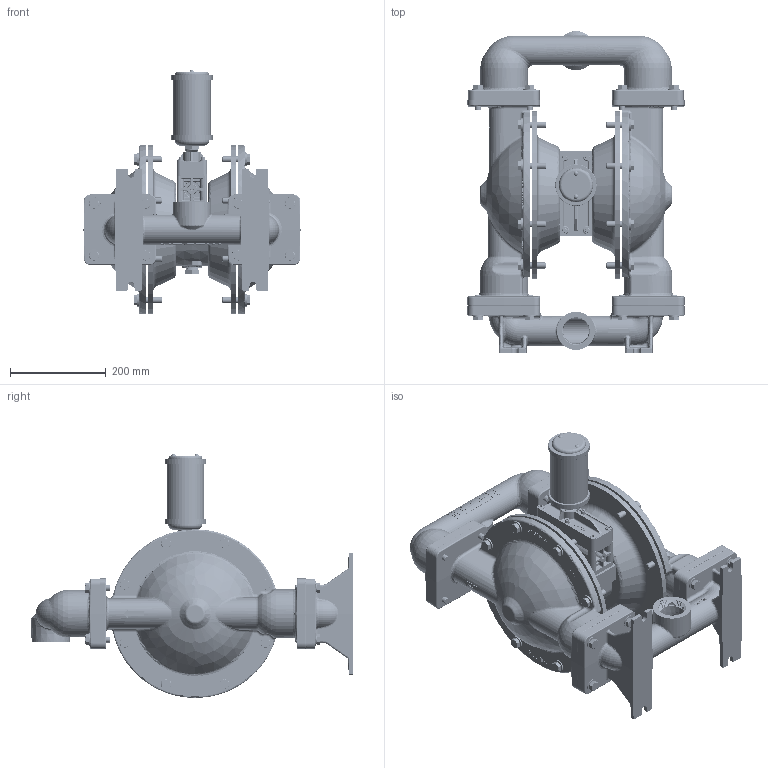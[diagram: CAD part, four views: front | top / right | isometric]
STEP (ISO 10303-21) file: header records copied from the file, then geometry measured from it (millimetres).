
FILE_DESCRIPTION((''),'2;1');
FILE_NAME('P820_DI_TOP_SW0001','2017-07-26T',('10013162'),(''),'PRO/ENGINEER BY PARAMETRIC TECHNOLOGY CORPORATION, 2015360','PRO/ENGINEER BY PARAMETRIC TECHNOLOGY CORPORATION, 2015360','');
FILE_SCHEMA(('CONFIG_CONTROL_DESIGN'));
Products named in the file (1): P820_DI_TOP_SW0001
Bounding box: 452.45 x 670.59 x 508.63 mm (x, y, z)
Volume: 12377384.9 mm3; surface area: 2215861.3 mm2
Topology: 5 solids, 5 shells, 8391 faces, 21907 edges, 13909 vertices
Faces by surface type: plane 5234, cylinder 1465, bspline 726, cone 466, torus 303, sphere 183, extrusion 14
Entity records: 454904 total; most frequent: CARTESIAN_POINT 254754, ORIENTED_EDGE 43766, DIRECTION 38130, EDGE_CURVE 21883, VECTOR 14870, LINE 14856, VERTEX_POINT 13912, AXIS2_PLACEMENT_3D 11630
